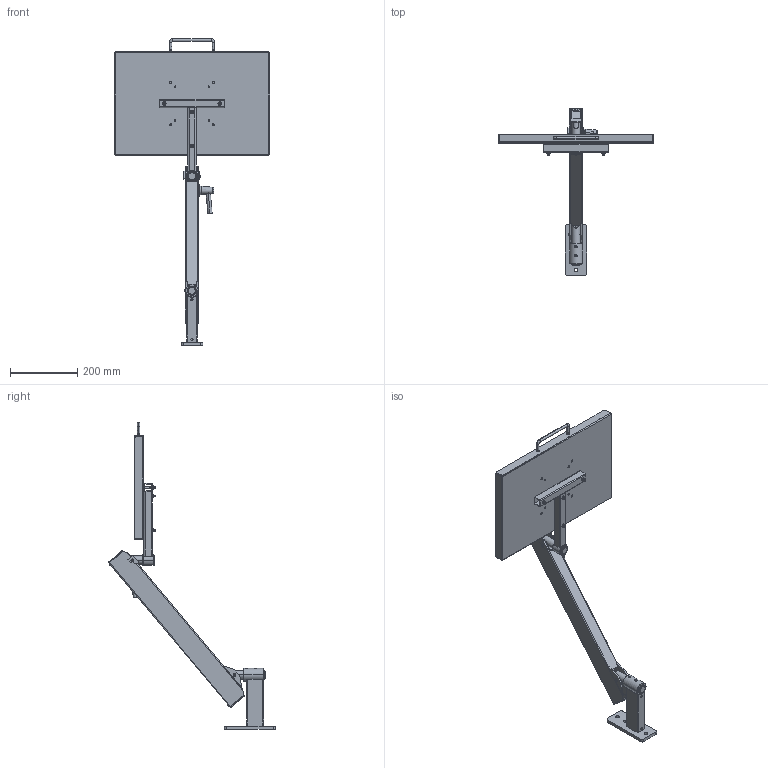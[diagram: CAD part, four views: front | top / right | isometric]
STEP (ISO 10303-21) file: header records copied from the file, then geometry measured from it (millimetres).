
FILE_DESCRIPTION (( 'STEP AP203' ), '1' );
FILE_NAME ('70-0733-00 REV AA, 18in FLEX SYSTEM, TOOL TRAY, WALL MOUNT W EXT - ANGLE UP.STEP', '2025-09-17T21:34:02', ( '' ), ( '' ), 'SwSTEP 2.0', 'SolidWorks 2025', '' );
FILE_SCHEMA (( 'CONFIG_CONTROL_DESIGN' ));
Length unit declared in the file: inch
Products named in the file (52): 71-0037-RX REV AA, PIVOT, THREADED; 71-1800-RX REV AA, HOUSING, 18in FLEX; 70-0733-00 REV AA, 18in FLEX SYSTEM, TOOL TRAY, WALL MOUNT W EXT - ANGLE UP; 11-0602-RX REV AA, HANDLE, BRAKE ASSEMBLY; 006-004-00_006-004-00; 002-091-00, FHSCS, 10-32x1.5, BO_002-091-00; 71-0031-RX REV AA, KNUCKLE, MOUNT_MACHINE; 006-008-00, NUT, HEX, 10-32 x .125_006-008-00; 005-084-00, BOLT, 1''4-20x2.75; 70-0095-00 REV AA, STUD MOUNT, 6in EXT; 71-3033-99 REV AA, BOLT, ADJUSTING, 15.250; 71-0040-RX REV AA, BRAKE BLOCK, WIDE_MACHINE; 71-2032-RX REV AA, SPRING ROD, 18in FLEX; 013-037-00, SPRING, GREEN, 1x12; 016-070-00, BEARING, PLASTIC, .5ID x .625 OD x .75; 025-067-00, HANDLE, U SHAPED, 8-32; 71-0047-RX REV AA, HOUSING, T AND STRAIGHT BAR_MACHINE; 010-011-00, RETAINING RING, EXT, .250 SHAFT_010-011-00; 016-007-00, OILITE PLUS BEARING, 0.876 id x 1.002 od x 0.75 lg; 11-0401-00 REV AA, 18x12 TOOL TRAY, BLACK; 71-0972-99 REV AA, END CAP, FLEX; 71-0013-RX REV AA, HOUSING, BEARING, SHORT_MACHINE; 002-100-00, BHSCS, 8-32x.375_002-100-00; 007-031-00_007-031-00; 004-050-00, WASHER, FIBER, .032 THK, .265ID; 70-1833-00 REV AA, FLEX SECTION, 18in, 6-33 LB; 004-144-00; 011-033-00; 11-0601-99 REV AA, CONICAL KNOB, BRAKE ASSEMBLY; 71-0029-RX REV AA, TAB, LOAD; 71-1801-BLKX REV AA, FLEX HOUSING, 18in, BLACK; 71-0091-RX REV AA, HOUSING, WALL MOUNT, 6in EXTENSION; 71-0217-RX REV AA, PLATE, NARROW WALL MOUNT_Laser; 71-0038-RX REV AA, PIVOT, KNUCKLE, ELECTROLESS NICKEL; 11-0450-00 REV AA, FOAM, YELLOW, 18x12; 71-0030-RX REV AA, KNUCKLE, LOAD_MACHINE; 71-1051-RX REV AA, SPRING BLOCK; 006-059-00; 007-036-00, SHSS, 1''4-28, .25L_007-036-00; 011-020-00 REV AA, PIN, KNURLED, 1.0LG x .25OD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
Assembly tree (80 placements, depth 4):
  70-0733-00 REV AA, 18in FLEX SYSTEM, TOOL TRAY, WALL MOUNT W EXT - ANGLE UP
    70-0095-00 REV AA, STUD MOUNT, 6in EXT
      71-0217-RX REV AA, PLATE, NARROW WALL MOUNT_Laser
      71-0091-RX REV AA, HOUSING, WALL MOUNT, 6in EXTENSION
      71-2113-RX REV AA, HOUSING, BEARING, TALL, 1.5OD_MACHINE
      016-007-00, OILITE PLUS BEARING, 0.876 id x 1.002 od x 0.75 lg
      016-008-00, OILITE PLUS BEARING, 0.876 id x 1.002 od x 1.25 lg
      007-036-00, SHSS, 1''4-28, .25L_007-036-00
    70-0401-00 REV AA, 18x12 SUPPORT TRAY ASSEMBLY
      11-0401-00 REV AA, 18x12 TOOL TRAY, BLACK
      70-0050-00 REV AA, T BAR
        71-0047-RX REV AA, HOUSING, T AND STRAIGHT BAR_MACHINE
        71-0013-RX REV AA, HOUSING, BEARING, SHORT_MACHINE
        71-0052-RX REV AA, HOUSING, T AND STRAIGHT BAR CROSS SECTION_MACHINE
        016-008-00, OILITE PLUS BEARING, 0.876 id x 1.002 od x 1.25 lg
        007-031-00_007-031-00
      002-091-00, FHSCS, 10-32x1.5, BO_002-091-00  x4
      006-008-00, NUT, HEX, 10-32 x .125_006-008-00  x4
      025-067-00, HANDLE, U SHAPED, 8-32
      002-100-00, BHSCS, 8-32x.375_002-100-00  x2
      11-0450-00 REV AA, FOAM, YELLOW, 18x12
    70-1833-00 REV AA, FLEX SECTION, 18in, 6-33 LB
      71-0031-RX REV AA, KNUCKLE, MOUNT_MACHINE
      71-2032-RX REV AA, SPRING ROD, 18in FLEX
      71-0030-RX REV AA, KNUCKLE, LOAD_MACHINE
      71-0038-RX REV AA, PIVOT, KNUCKLE, ELECTROLESS NICKEL
      71-3033-99 REV AA, BOLT, ADJUSTING, 15.250
      71-0040-RX REV AA, BRAKE BLOCK, WIDE_MACHINE
      11-0027-RX REV AA, PLASTIC DISC, BRAKE ASSEMBLY_MACHINE
      71-1051-RX REV AA, SPRING BLOCK
      71-0037-RX REV AA, PIVOT, THREADED
      71-0972-99 REV AA, END CAP, FLEX  x2
      11-0650-00 REV AA, BRAKE HANDLE ASSEMBLY
        11-0601-99 REV AA, CONICAL KNOB, BRAKE ASSEMBLY
        11-0602-RX REV AA, HANDLE, BRAKE ASSEMBLY
        11-0027-RX REV AA, PLASTIC DISC, BRAKE ASSEMBLY_MACHINE
        005-084-00, BOLT, 1''4-20x2.75
      71-0071-RX REV AA, AXLE PIN, LONG
      71-1801-BLKX REV AA, FLEX HOUSING, 18in, BLACK
        71-1800-RX REV AA, HOUSING, 18in FLEX
        71-0029-RX REV AA, TAB, LOAD  x2
        71-0028-RX REV AA, TAB, MOUNT_MACHINE  x2
      71-0070-RX REV AA, AXLE PIN, SHORT
      010-011-00, RETAINING RING, EXT, .250 SHAFT_010-011-00  x4
      002-041-00_002-041-00  x2
      010-012-00, RETAINING RING, EXTERNAL, .875in SHAFT  x2
      011-020-00 REV AA, PIN, KNURLED, 1.0LG x .25OD  x2
      011-033-00
      004-144-00  x3
      013-037-00, SPRING, GREEN, 1x12
      016-070-00, BEARING, PLASTIC, .5ID x .625 OD x .75  x2
      006-059-00
      006-004-00_006-004-00  x2
      004-050-00, WASHER, FIBER, .032 THK, .265ID  x8
Bounding box: 461.77 x 496.38 x 911.82 mm (x, y, z)
Volume: 1747765.3 mm3; surface area: 1212877.7 mm2
Topology: 76 solids, 76 shells, 2043 faces, 4964 edges, 3065 vertices
Faces by surface type: cylinder 908, plane 561, cone 423, torus 89, bspline 52, sphere 10
Entity records: 82381 total; most frequent: CARTESIAN_POINT 46773, ORIENTED_EDGE 6160, DIRECTION 6084, EDGE_CURVE 3080, AXIS2_PLACEMENT_3D 2355, VERTEX_POINT 1911, EDGE_LOOP 1415, LINE 1374
